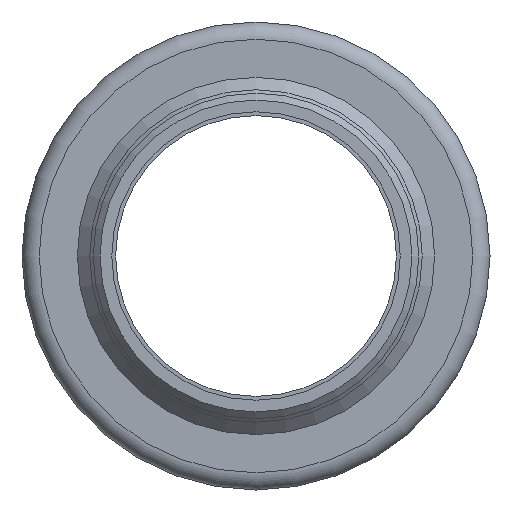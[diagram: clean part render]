
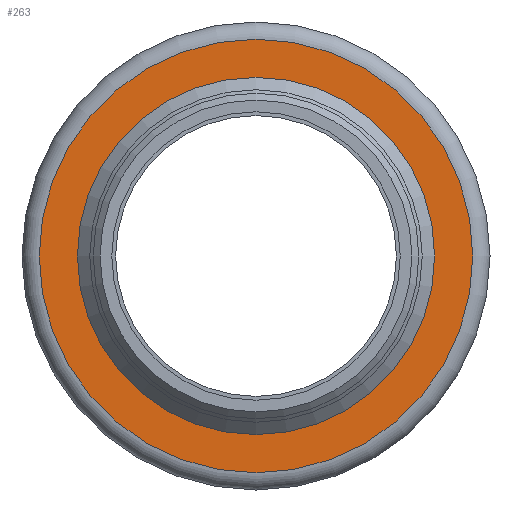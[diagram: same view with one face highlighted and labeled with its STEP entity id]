
A CAD part, front view. The second image highlights one B-rep face of the part: STEP entity #263.
In plain terms, the highlighted planar face has unit normal (0, -1, 0).
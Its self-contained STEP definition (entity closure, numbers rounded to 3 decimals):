
#85=ORIENTED_EDGE('',*,*,#106,.F.);
#86=ORIENTED_EDGE('',*,*,#112,.T.);
#106=EDGE_CURVE('',#127,#127,#148,.T.);
#112=EDGE_CURVE('',#133,#133,#154,.T.);
#127=VERTEX_POINT('',#478);
#133=VERTEX_POINT('',#495);
#148=CIRCLE('',#326,25.95);
#154=CIRCLE('',#337,31.5);
#190=EDGE_LOOP('',(#85));
#191=EDGE_LOOP('',(#86));
#232=FACE_BOUND('',#190,.T.);
#233=FACE_BOUND('',#191,.T.);
#245=PLANE('',#336);
#263=ADVANCED_FACE('',(#232,#233),#245,.T.);
#326=AXIS2_PLACEMENT_3D('',#477,#401,#402);
#336=AXIS2_PLACEMENT_3D('',#493,#421,#422);
#337=AXIS2_PLACEMENT_3D('',#494,#423,#424);
#401=DIRECTION('',(0.,-1.,0.));
#402=DIRECTION('',(0.,0.,-1.));
#421=DIRECTION('',(0.,-1.,0.));
#422=DIRECTION('',(0.,0.,-1.));
#423=DIRECTION('',(0.,-1.,0.));
#424=DIRECTION('',(0.,0.,-1.));
#477=CARTESIAN_POINT('',(0.,0.,0.));
#478=CARTESIAN_POINT('',(0.,0.,-25.95));
#493=CARTESIAN_POINT('',(0.,0.,24.15));
#494=CARTESIAN_POINT('',(0.,0.,0.));
#495=CARTESIAN_POINT('',(0.,0.,-31.5));
